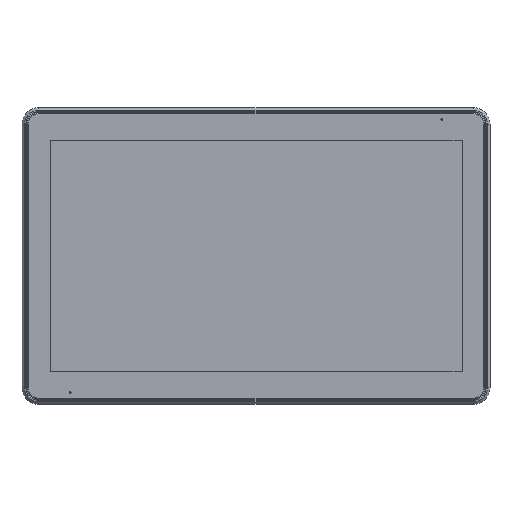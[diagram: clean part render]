
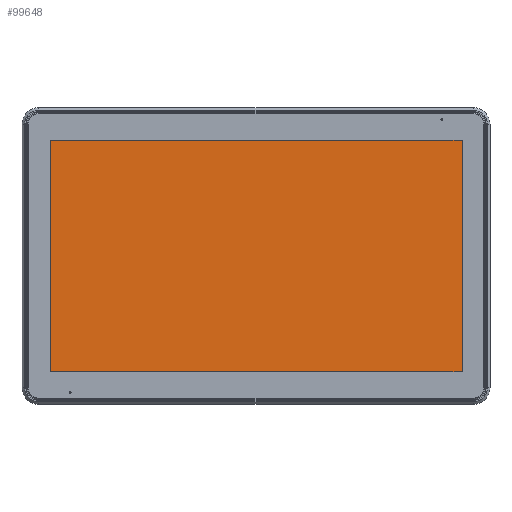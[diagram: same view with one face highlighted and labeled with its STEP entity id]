
A CAD part, top view. The second image highlights one B-rep face of the part: STEP entity #99648.
In plain terms, the highlighted planar face has unit normal (0, 0, 1).
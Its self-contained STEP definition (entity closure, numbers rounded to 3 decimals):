
#8806=PLANE('',#106263);
#16900=FACE_OUTER_BOUND('',#22818,.T.);
#22818=EDGE_LOOP('',(#87211,#87212,#87213,#87214));
#29786=LINE('',#231127,#37142);
#29789=LINE('',#231133,#37145);
#29792=LINE('',#231139,#37148);
#29795=LINE('',#231143,#37151);
#37142=VECTOR('',#124282,10.);
#37145=VECTOR('',#124287,10.);
#37148=VECTOR('',#124292,10.);
#37151=VECTOR('',#124297,10.);
#48645=VERTEX_POINT('',#231124);
#48646=VERTEX_POINT('',#231126);
#48648=VERTEX_POINT('',#231132);
#48650=VERTEX_POINT('',#231138);
#61852=EDGE_CURVE('',#48646,#48645,#29786,.T.);
#61855=EDGE_CURVE('',#48648,#48646,#29789,.T.);
#61858=EDGE_CURVE('',#48650,#48648,#29792,.T.);
#61861=EDGE_CURVE('',#48645,#48650,#29795,.T.);
#87211=ORIENTED_EDGE('',*,*,#61852,.T.);
#87212=ORIENTED_EDGE('',*,*,#61861,.T.);
#87213=ORIENTED_EDGE('',*,*,#61858,.T.);
#87214=ORIENTED_EDGE('',*,*,#61855,.T.);
#99648=ADVANCED_FACE('',(#16900),#8806,.T.);
#106263=AXIS2_PLACEMENT_3D('',#231226,#124386,#124387);
#124282=DIRECTION('',(-1.,0.,0.));
#124287=DIRECTION('',(0.,1.,0.));
#124292=DIRECTION('',(1.,0.,0.));
#124297=DIRECTION('',(0.,-1.,0.));
#124386=DIRECTION('center_axis',(0.,0.,
1.));
#124387=DIRECTION('ref_axis',(1.,0.,0.));
#231124=CARTESIAN_POINT('',(-204.85,115.3,-0.201));
#231126=CARTESIAN_POINT('',(205.35,115.3,-0.201));
#231127=CARTESIAN_POINT('',(0.125,115.3,-0.201));
#231132=CARTESIAN_POINT('',(205.35,-115.5,-0.201));
#231133=CARTESIAN_POINT('',(205.35,57.65,-0.201));
#231138=CARTESIAN_POINT('',(-204.85,-115.5,-0.201));
#231139=CARTESIAN_POINT('',(102.675,-115.5,-0.201));
#231143=CARTESIAN_POINT('',(-204.85,-0.05,-0.201));
#231226=CARTESIAN_POINT('Origin',(0.,0.,
-0.201));
